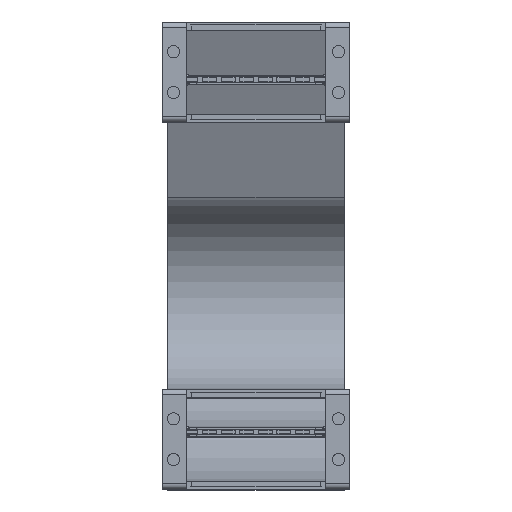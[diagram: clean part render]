
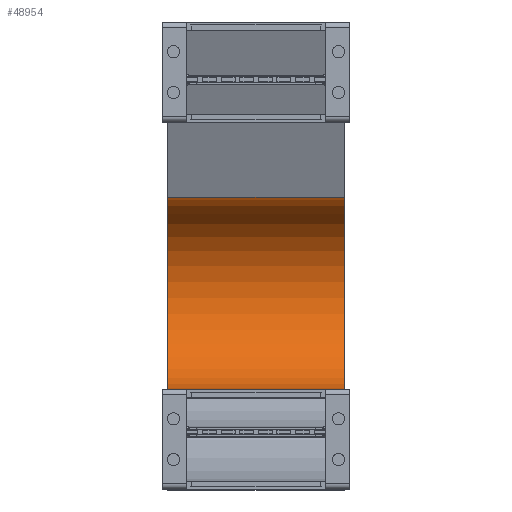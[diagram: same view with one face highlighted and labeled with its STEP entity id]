
A CAD part, top view. The second image highlights one B-rep face of the part: STEP entity #48954.
In plain terms, the highlighted cylindrical face has radius 52 mm (diameter 104 mm), a partial arc.
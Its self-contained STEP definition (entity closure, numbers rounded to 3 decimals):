
#48106=DIRECTION('',(-1.,0.,0.));
#48107=VECTOR('',#48106,95.);
#48108=CARTESIAN_POINT('',(47.5,54.,-500.));
#48109=LINE('',#48108,#48107);
#48120=DIRECTION('',(-1.,0.,0.));
#48121=VECTOR('',#48120,95.);
#48122=CARTESIAN_POINT('',(47.5,157.747,-505.126));
#48123=LINE('',#48122,#48121);
#48127=CARTESIAN_POINT('',(47.5,106.,-500.));
#48128=DIRECTION('',(-1.,0.,0.));
#48129=DIRECTION('',(0.,0.995,-0.099));
#48130=AXIS2_PLACEMENT_3D('',#48127,#48128,#48129);
#48206=CARTESIAN_POINT('',(-47.5,106.,-500.));
#48207=DIRECTION('',(-1.,0.,0.));
#48208=DIRECTION('',(0.,0.995,-0.099));
#48209=AXIS2_PLACEMENT_3D('',#48206,#48207,#48208);
#48328=CARTESIAN_POINT('',(47.5,157.747,-505.126));
#48329=CARTESIAN_POINT('',(-47.5,157.747,-505.126));
#48330=VERTEX_POINT('',#48328);
#48331=VERTEX_POINT('',#48329);
#48352=CARTESIAN_POINT('',(47.5,54.,-500.));
#48353=CARTESIAN_POINT('',(-47.5,54.,-500.));
#48354=VERTEX_POINT('',#48352);
#48355=VERTEX_POINT('',#48353);
#48940=CARTESIAN_POINT('',(1.,106.,-500.));
#48941=DIRECTION('',(-1.,0.,0.));
#48942=DIRECTION('',(0.,-0.995,0.099));
#48943=AXIS2_PLACEMENT_3D('',#48940,#48941,#48942);
#48944=CYLINDRICAL_SURFACE('',#48943,52.);
#48946=ORIENTED_EDGE('',*,*,#48945,.F.);
#48948=ORIENTED_EDGE('',*,*,#48947,.T.);
#48949=ORIENTED_EDGE('',*,*,#48923,.T.);
#48951=ORIENTED_EDGE('',*,*,#48950,.F.);
#48952=EDGE_LOOP('',(#48946,#48948,#48949,#48951));
#48953=FACE_OUTER_BOUND('',#48952,.F.);
#48131=CIRCLE('',#48130,52.);
#48210=CIRCLE('',#48209,52.);
#48923=EDGE_CURVE('',#48354,#48355,#48109,.T.);
#48945=EDGE_CURVE('',#48330,#48331,#48123,.T.);
#48947=EDGE_CURVE('',#48330,#48354,#48131,.T.);
#48950=EDGE_CURVE('',#48331,#48355,#48210,.T.);
#48954=ADVANCED_FACE('',(#48953),#48944,.F.);
